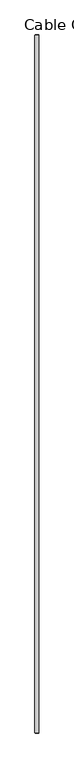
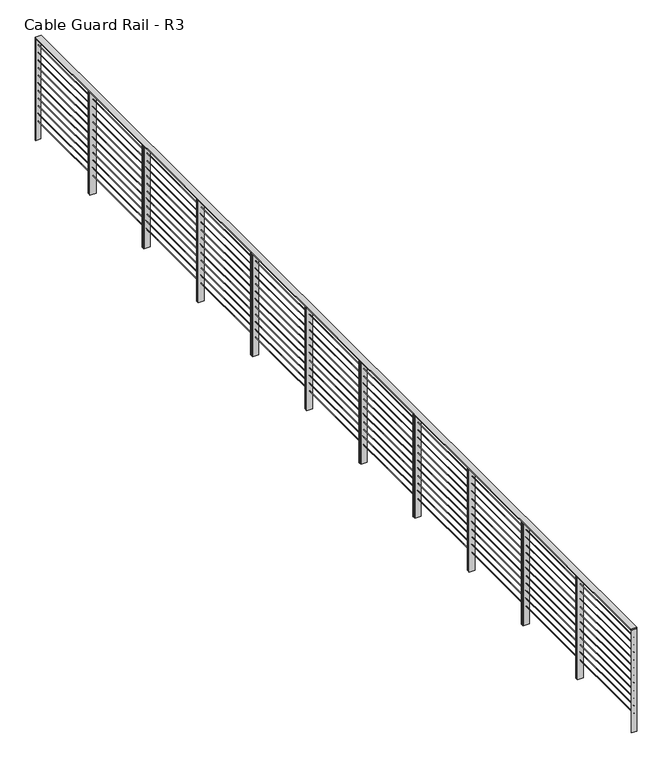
"""IFC4 building model written with IfcOpenShell, lengths in millimetres: railing geometry, Cable Guard Rail - R3."""

from ifc_helpers import new_model, si_unit, point, frame, frame_2d, origin, place, context, project, spatial, polyline, circle_curve, trimmed, segment, composite_curve, outline, extrude, source, transform, mapped, element, save


def cable_guard_rail_r3_7ccdf80b(model_context):
    return source(origin(), model_context, "Body", "SweptSolid", [
        extrude(outline(polyline([(22390.8044304, 188223.6056087), (22467.0044304, 188223.6056087), (22467.0044304, 175217.9436306), (22390.8044304, 175217.9436306), (22390.8044304, 188223.6056087)])), frame((0.0, 0.0, 294887.65), z_axis=(0.0, 0.0, 1.0), x_axis=(1.0, 0.0, 0.0)), (0.0, 0.0, 1.0), 12.7),
        extrude(outline(composite_curve([segment(trimmed(circle_curve(frame_2d((294786.05, 22428.9044304)), 3.175), [point((294786.05, 22432.0794304))], [point((294786.05, 22425.7294304))], False, "CARTESIAN"), True, "CONTINUOUS"), segment(trimmed(circle_curve(frame_2d((294786.05, 22428.9044304)), 3.175), [point((294786.05, 22425.7294304))], [point((294786.05, 22432.0794304))], False, "CARTESIAN"), True, "CONTINUOUS")], self_intersect=False)), frame((0.0, 175217.9436306, 0.0), z_axis=(0.0, 1.0, 0.0), x_axis=(0.0, 0.0, 1.0)), (0.0, 0.0, 1.0), 13005.6619781),
        extrude(outline(composite_curve([segment(trimmed(circle_curve(frame_2d((294684.45, 22428.9044304)), 3.175), [point((294684.45, 22432.0794304))], [point((294684.45, 22425.7294304))], False, "CARTESIAN"), True, "CONTINUOUS"), segment(trimmed(circle_curve(frame_2d((294684.45, 22428.9044304)), 3.175), [point((294684.45, 22425.7294304))], [point((294684.45, 22432.0794304))], False, "CARTESIAN"), True, "CONTINUOUS")], self_intersect=False)), frame((0.0, 175217.9436306, 0.0), z_axis=(0.0, 1.0, 0.0), x_axis=(0.0, 0.0, 1.0)), (0.0, 0.0, 1.0), 13005.6619781),
        extrude(outline(composite_curve([segment(trimmed(circle_curve(frame_2d((294582.85, 22428.9044304)), 3.175), [point((294582.85, 22432.0794304))], [point((294582.85, 22425.7294304))], False, "CARTESIAN"), True, "CONTINUOUS"), segment(trimmed(circle_curve(frame_2d((294582.85, 22428.9044304)), 3.175), [point((294582.85, 22425.7294304))], [point((294582.85, 22432.0794304))], False, "CARTESIAN"), True, "CONTINUOUS")], self_intersect=False)), frame((0.0, 175217.9436306, 0.0), z_axis=(0.0, 1.0, 0.0), x_axis=(0.0, 0.0, 1.0)), (0.0, 0.0, 1.0), 13005.6619781),
        extrude(outline(composite_curve([segment(trimmed(circle_curve(frame_2d((294481.25, 22428.9044304)), 3.175), [point((294481.25, 22432.0794304))], [point((294481.25, 22425.7294304))], False, "CARTESIAN"), True, "CONTINUOUS"), segment(trimmed(circle_curve(frame_2d((294481.25, 22428.9044304)), 3.175), [point((294481.25, 22425.7294304))], [point((294481.25, 22432.0794304))], False, "CARTESIAN"), True, "CONTINUOUS")], self_intersect=False)), frame((0.0, 175217.9436306, 0.0), z_axis=(0.0, 1.0, 0.0), x_axis=(0.0, 0.0, 1.0)), (0.0, 0.0, 1.0), 13005.6619781),
        extrude(outline(composite_curve([segment(trimmed(circle_curve(frame_2d((294379.65, 22428.9044304)), 3.175), [point((294379.65, 22432.0794304))], [point((294379.65, 22425.7294304))], False, "CARTESIAN"), True, "CONTINUOUS"), segment(trimmed(circle_curve(frame_2d((294379.65, 22428.9044304)), 3.175), [point((294379.65, 22425.7294304))], [point((294379.65, 22432.0794304))], False, "CARTESIAN"), True, "CONTINUOUS")], self_intersect=False)), frame((0.0, 175217.9436306, 0.0), z_axis=(0.0, 1.0, 0.0), x_axis=(0.0, 0.0, 1.0)), (0.0, 0.0, 1.0), 13005.6619781),
        extrude(outline(composite_curve([segment(trimmed(circle_curve(frame_2d((294278.05, 22428.9044304)), 3.175), [point((294278.05, 22432.0794304))], [point((294278.05, 22425.7294304))], False, "CARTESIAN"), True, "CONTINUOUS"), segment(trimmed(circle_curve(frame_2d((294278.05, 22428.9044304)), 3.175), [point((294278.05, 22425.7294304))], [point((294278.05, 22432.0794304))], False, "CARTESIAN"), True, "CONTINUOUS")], self_intersect=False)), frame((0.0, 175217.9436306, 0.0), z_axis=(0.0, 1.0, 0.0), x_axis=(0.0, 0.0, 1.0)), (0.0, 0.0, 1.0), 13005.6619781),
        extrude(outline(composite_curve([segment(trimmed(circle_curve(frame_2d((294176.45, 22428.9044304)), 3.175), [point((294176.45, 22432.0794304))], [point((294176.45, 22425.7294304))], False, "CARTESIAN"), True, "CONTINUOUS"), segment(trimmed(circle_curve(frame_2d((294176.45, 22428.9044304)), 3.175), [point((294176.45, 22425.7294304))], [point((294176.45, 22432.0794304))], False, "CARTESIAN"), True, "CONTINUOUS")], self_intersect=False)), frame((0.0, 175217.9436306, 0.0), z_axis=(0.0, 1.0, 0.0), x_axis=(0.0, 0.0, 1.0)), (0.0, 0.0, 1.0), 13005.6619781),
        extrude(outline(composite_curve([segment(trimmed(circle_curve(frame_2d((294074.85, 22428.9044304)), 3.175), [point((294074.85, 22432.0794304))], [point((294074.85, 22425.7294304))], False, "CARTESIAN"), True, "CONTINUOUS"), segment(trimmed(circle_curve(frame_2d((294074.85, 22428.9044304)), 3.175), [point((294074.85, 22425.7294304))], [point((294074.85, 22432.0794304))], False, "CARTESIAN"), True, "CONTINUOUS")], self_intersect=False)), frame((0.0, 175217.9436306, 0.0), z_axis=(0.0, 1.0, 0.0), x_axis=(0.0, 0.0, 1.0)), (0.0, 0.0, 1.0), 13005.6619781),
        extrude(outline(composite_curve([segment(trimmed(circle_curve(frame_2d((293973.25, 22428.9044304)), 3.175), [point((293973.25, 22432.0794304))], [point((293973.25, 22425.7294304))], False, "CARTESIAN"), True, "CONTINUOUS"), segment(trimmed(circle_curve(frame_2d((293973.25, 22428.9044304)), 3.175), [point((293973.25, 22425.7294304))], [point((293973.25, 22432.0794304))], False, "CARTESIAN"), True, "CONTINUOUS")], self_intersect=False)), frame((0.0, 175217.9436306, 0.0), z_axis=(0.0, 1.0, 0.0), x_axis=(0.0, 0.0, 1.0)), (0.0, 0.0, 1.0), 13005.6619781),
        extrude(outline(composite_curve([segment(trimmed(circle_curve(frame_2d((293871.65, 22428.9044304)), 3.175), [point((293871.65, 22432.0794304))], [point((293871.65, 22425.7294304))], False, "CARTESIAN"), True, "CONTINUOUS"), segment(trimmed(circle_curve(frame_2d((293871.65, 22428.9044304)), 3.175), [point((293871.65, 22425.7294304))], [point((293871.65, 22432.0794304))], False, "CARTESIAN"), True, "CONTINUOUS")], self_intersect=False)), frame((0.0, 175217.9436306, 0.0), z_axis=(0.0, 1.0, 0.0), x_axis=(0.0, 0.0, 1.0)), (0.0, 0.0, 1.0), 13005.6619781),
        extrude(outline(composite_curve([segment(trimmed(circle_curve(frame_2d((293770.05, 22428.9044304)), 3.175), [point((293770.05, 22432.0794304))], [point((293770.05, 22425.7294304))], False, "CARTESIAN"), True, "CONTINUOUS"), segment(trimmed(circle_curve(frame_2d((293770.05, 22428.9044304)), 3.175), [point((293770.05, 22425.7294304))], [point((293770.05, 22432.0794304))], False, "CARTESIAN"), True, "CONTINUOUS")], self_intersect=False)), frame((0.0, 175217.9436306, 0.0), z_axis=(0.0, 1.0, 0.0), x_axis=(0.0, 0.0, 1.0)), (0.0, 0.0, 1.0), 13005.6619781),
        extrude(outline(polyline([(22467.0044304, 176422.5015377), (22467.0044304, 176412.9765377), (22390.8044304, 176412.9765377), (22390.8044304, 176422.5015377), (22467.0044304, 176422.5015377)])), frame((0.0, 0.0, 293522.4), z_axis=(0.0, 0.0, 1.0), x_axis=(1.0, 0.0, 0.0)), (0.0, 0.0, 1.0), 1365.25),
        extrude(outline(polyline([(22467.0044304, 176393.9265377), (22467.0044304, 176384.4497731), (22390.8044304, 176384.4497731), (22390.8044304, 176393.9265377), (22467.0044304, 176393.9265377)])), frame((0.0, 0.0, 293522.4), z_axis=(0.0, 0.0, 1.0), x_axis=(1.0, 0.0, 0.0)), (0.0, 0.0, 1.0), 1365.25),
        extrude(outline(polyline([(22467.0044304, 177604.8344448), (22467.0044304, 177595.3094448), (22390.8044304, 177595.3094448), (22390.8044304, 177604.8344448), (22467.0044304, 177604.8344448)])), frame((0.0, 0.0, 293522.4), z_axis=(0.0, 0.0, 1.0), x_axis=(1.0, 0.0, 0.0)), (0.0, 0.0, 1.0), 1365.25),
        extrude(outline(polyline([(22467.0044304, 177576.2594448), (22467.0044304, 177566.7826802), (22390.8044304, 177566.7826802), (22390.8044304, 177576.2594448), (22467.0044304, 177576.2594448)])), frame((0.0, 0.0, 293522.4), z_axis=(0.0, 0.0, 1.0), x_axis=(1.0, 0.0, 0.0)), (0.0, 0.0, 1.0), 1365.25),
        extrude(outline(polyline([(22467.0044304, 178787.1673519), (22467.0044304, 178777.6423519), (22390.8044304, 178777.6423519), (22390.8044304, 178787.1673519), (22467.0044304, 178787.1673519)])), frame((0.0, 0.0, 293522.4), z_axis=(0.0, 0.0, 1.0), x_axis=(1.0, 0.0, 0.0)), (0.0, 0.0, 1.0), 1365.25),
        extrude(outline(polyline([(22467.0044304, 178758.5923519), (22467.0044304, 178749.1155873), (22390.8044304, 178749.1155873), (22390.8044304, 178758.5923519), (22467.0044304, 178758.5923519)])), frame((0.0, 0.0, 293522.4), z_axis=(0.0, 0.0, 1.0), x_axis=(1.0, 0.0, 0.0)), (0.0, 0.0, 1.0), 1365.25),
        extrude(outline(polyline([(22467.0044304, 179969.500259), (22467.0044304, 179959.975259), (22390.8044304, 179959.975259), (22390.8044304, 179969.500259), (22467.0044304, 179969.500259)])), frame((0.0, 0.0, 293522.4), z_axis=(0.0, 0.0, 1.0), x_axis=(1.0, 0.0, 0.0)), (0.0, 0.0, 1.0), 1365.25),
        extrude(outline(polyline([(22467.0044304, 179940.925259), (22467.0044304, 179931.4484944), (22390.8044304, 179931.4484944), (22390.8044304, 179940.925259), (22467.0044304, 179940.925259)])), frame((0.0, 0.0, 293522.4), z_axis=(0.0, 0.0, 1.0), x_axis=(1.0, 0.0, 0.0)), (0.0, 0.0, 1.0), 1365.25),
        extrude(outline(polyline([(22467.0044304, 181151.8331661), (22467.0044304, 181142.3081661), (22390.8044304, 181142.3081661), (22390.8044304, 181151.8331661), (22467.0044304, 181151.8331661)])), frame((0.0, 0.0, 293522.4), z_axis=(0.0, 0.0, 1.0), x_axis=(1.0, 0.0, 0.0)), (0.0, 0.0, 1.0), 1365.25),
        extrude(outline(polyline([(22467.0044304, 181123.2581661), (22467.0044304, 181113.7814015), (22390.8044304, 181113.7814015), (22390.8044304, 181123.2581661), (22467.0044304, 181123.2581661)])), frame((0.0, 0.0, 293522.4), z_axis=(0.0, 0.0, 1.0), x_axis=(1.0, 0.0, 0.0)), (0.0, 0.0, 1.0), 1365.25),
        extrude(outline(polyline([(22467.0044304, 182334.1660732), (22467.0044304, 182324.6410732), (22390.8044304, 182324.6410732), (22390.8044304, 182334.1660732), (22467.0044304, 182334.1660732)])), frame((0.0, 0.0, 293522.4), z_axis=(0.0, 0.0, 1.0), x_axis=(1.0, 0.0, 0.0)), (0.0, 0.0, 1.0), 1365.25),
        extrude(outline(polyline([(22467.0044304, 182305.5910732), (22467.0044304, 182296.1143086), (22390.8044304, 182296.1143086), (22390.8044304, 182305.5910732), (22467.0044304, 182305.5910732)])), frame((0.0, 0.0, 293522.4), z_axis=(0.0, 0.0, 1.0), x_axis=(1.0, 0.0, 0.0)), (0.0, 0.0, 1.0), 1365.25),
        extrude(outline(polyline([(22467.0044304, 183516.4989803), (22467.0044304, 183506.9739803), (22390.8044304, 183506.9739803), (22390.8044304, 183516.4989803), (22467.0044304, 183516.4989803)])), frame((0.0, 0.0, 293522.4), z_axis=(0.0, 0.0, 1.0), x_axis=(1.0, 0.0, 0.0)), (0.0, 0.0, 1.0), 1365.25),
        extrude(outline(polyline([(22467.0044304, 183487.9239803), (22467.0044304, 183478.4472157), (22390.8044304, 183478.4472157), (22390.8044304, 183487.9239803), (22467.0044304, 183487.9239803)])), frame((0.0, 0.0, 293522.4), z_axis=(0.0, 0.0, 1.0), x_axis=(1.0, 0.0, 0.0)), (0.0, 0.0, 1.0), 1365.25),
        extrude(outline(polyline([(22467.0044304, 184698.8318874), (22467.0044304, 184689.3068874), (22390.8044304, 184689.3068874), (22390.8044304, 184698.8318874), (22467.0044304, 184698.8318874)])), frame((0.0, 0.0, 293522.4), z_axis=(0.0, 0.0, 1.0), x_axis=(1.0, 0.0, 0.0)), (0.0, 0.0, 1.0), 1365.25),
        extrude(outline(polyline([(22467.0044304, 184670.2568874), (22467.0044304, 184660.7801228), (22390.8044304, 184660.7801228), (22390.8044304, 184670.2568874), (22467.0044304, 184670.2568874)])), frame((0.0, 0.0, 293522.4), z_axis=(0.0, 0.0, 1.0), x_axis=(1.0, 0.0, 0.0)), (0.0, 0.0, 1.0), 1365.25),
        extrude(outline(polyline([(22467.0044304, 185881.1647945), (22467.0044304, 185871.6397945), (22390.8044304, 185871.6397945), (22390.8044304, 185881.1647945), (22467.0044304, 185881.1647945)])), frame((0.0, 0.0, 293522.4), z_axis=(0.0, 0.0, 1.0), x_axis=(1.0, 0.0, 0.0)), (0.0, 0.0, 1.0), 1365.25),
        extrude(outline(polyline([(22467.0044304, 185852.5897945), (22467.0044304, 185843.1130299), (22390.8044304, 185843.1130299), (22390.8044304, 185852.5897945), (22467.0044304, 185852.5897945)])), frame((0.0, 0.0, 293522.4), z_axis=(0.0, 0.0, 1.0), x_axis=(1.0, 0.0, 0.0)), (0.0, 0.0, 1.0), 1365.25),
        extrude(outline(polyline([(22467.0044304, 187063.4977016), (22467.0044304, 187053.9727016), (22390.8044304, 187053.9727016), (22390.8044304, 187063.4977016), (22467.0044304, 187063.4977016)])), frame((0.0, 0.0, 293522.4), z_axis=(0.0, 0.0, 1.0), x_axis=(1.0, 0.0, 0.0)), (0.0, 0.0, 1.0), 1365.25),
        extrude(outline(polyline([(22467.0044304, 187034.9227016), (22467.0044304, 187025.445937), (22390.8044304, 187025.445937), (22390.8044304, 187034.9227016), (22467.0044304, 187034.9227016)])), frame((0.0, 0.0, 293522.4), z_axis=(0.0, 0.0, 1.0), x_axis=(1.0, 0.0, 0.0)), (0.0, 0.0, 1.0), 1365.25),
        extrude(outline(polyline([(22460.6544304, 175221.1186306), (22460.6544304, 175214.7686306), (22397.1544304, 175214.7686306), (22397.1544304, 175221.1186306), (22460.6544304, 175221.1186306)])), frame((0.0, 0.0, 293522.4), z_axis=(0.0, 0.0, 1.0), x_axis=(1.0, 0.0, 0.0)), (0.0, 0.0, 1.0), 1365.25),
        extrude(outline(polyline([(22460.6544304, 188226.7806087), (22460.6544304, 188220.4306087), (22397.1544304, 188220.4306087), (22397.1544304, 188226.7806087), (22460.6544304, 188226.7806087)])), frame((0.0, 0.0, 293522.4), z_axis=(0.0, 0.0, 1.0), x_axis=(1.0, 0.0, 0.0)), (0.0, 0.0, 1.0), 1365.25),
    ])


if __name__ == "__main__":
    model = new_model("IFC4")
    model_context = context("Model", 3, world=origin())
    ifc_project = project(units=[si_unit("LENGTHUNIT", "METRE", prefix="MILLI")], contexts=[model_context])
    site = spatial("IfcSite", under=ifc_project)
    building = spatial("IfcBuilding", under=site)
    placement = place(None, origin())
    cable_guard_rail_r3_shape = cable_guard_rail_r3_7ccdf80b(model_context)
    element("IfcRailing", 1, ObjectType="Cable Guard Rail - R3", at=placement, inside=building, context=model_context, shape_type="MappedRepresentation", body=[
        mapped(cable_guard_rail_r3_shape, transform((0.0, 0.0, 0.0), x_axis=(1.0, 0.0, 0.0), y_axis=(0.0, 1.0, 0.0), z_axis=(0.0, 0.0, 1.0))),
    ])
    save(model, "model.ifc")
